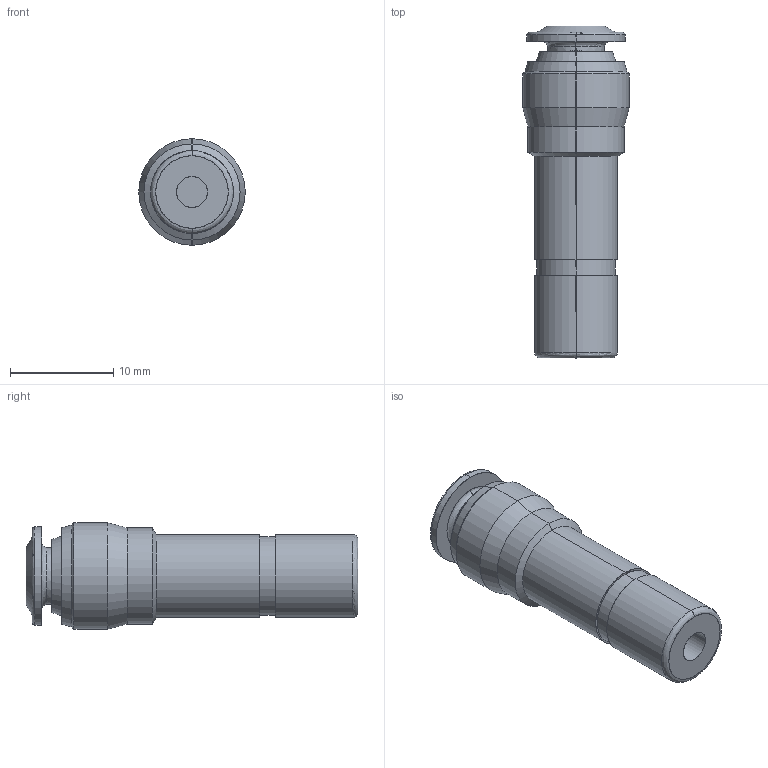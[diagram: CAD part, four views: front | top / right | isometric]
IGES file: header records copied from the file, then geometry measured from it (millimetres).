
Start section: SolidWorks IGES file using analytic representation for surfaces
Global section: file name: K:\Disegni Esecutivi\Serie 57000\ASSIEMI_57000\57700\ASSIEMI_PIENI_57700\5770000008.IGS; native system: SolidWorks 2008; preprocessor: SolidWorks 2008; author: cad02; date: 080220.090434; units: millimetre
Bounding box: 10.3 x 32.1 x 10.3 mm (x, y, z)
Surface area: 1204 mm2 (no closed solid volume)
Topology: 0 solids, 0 shells, 56 faces, 848 edges, 848 vertices
Faces by surface type: revolution 34, bspline 22
